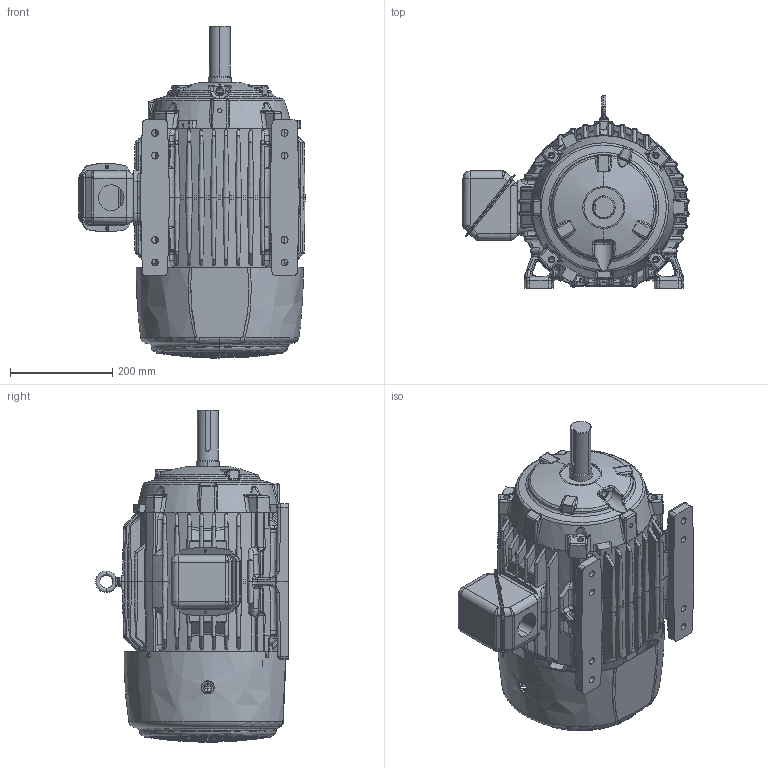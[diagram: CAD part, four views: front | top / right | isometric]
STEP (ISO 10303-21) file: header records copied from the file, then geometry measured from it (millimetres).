
FILE_DESCRIPTION((''),'2;1');
FILE_NAME('250_GP_ASSEMBLY_ASM','2014-06-23T',('emd2341'),('Nidec Motor Corporation'),'PRO/ENGINEER BY PARAMETRIC TECHNOLOGY CORPORATION, 2013150','PRO/ENGINEER BY PARAMETRIC TECHNOLOGY CORPORATION, 2013150','');
FILE_SCHEMA(('CONFIG_CONTROL_DESIGN'));
Products named in the file (10): 0929916; 0644262; 0644261; 0172877; 0644269; 0133167; 0378700; 0378701; 0380780; 250_GP_ASSEMBLY_ASM
Assembly tree (9 placements, depth 2):
  250_GP_ASSEMBLY_ASM
    0929916
    0644262
    0644261
    0172877
    0644269
    0133167
    0378700
    0378701
    0380780
Bounding box: 443.34 x 378.27 x 650.85 mm (x, y, z)
Volume: 9478341.2 mm3; surface area: 2172296.6 mm2
Topology: 11 solids, 11 shells, 3652 faces, 9022 edges, 5329 vertices
Faces by surface type: bspline 1438, cylinder 772, plane 683, torus 342, sphere 214, cone 187, extrusion 16
Entity records: 176256 total; most frequent: CARTESIAN_POINT 101471, ORIENTED_EDGE 17952, DIRECTION 12551, EDGE_CURVE 8976, AXIS2_PLACEMENT_3D 5385, VERTEX_POINT 5329, B_SPLINE_CURVE_WITH_KNOTS 4059, EDGE_LOOP 3839
